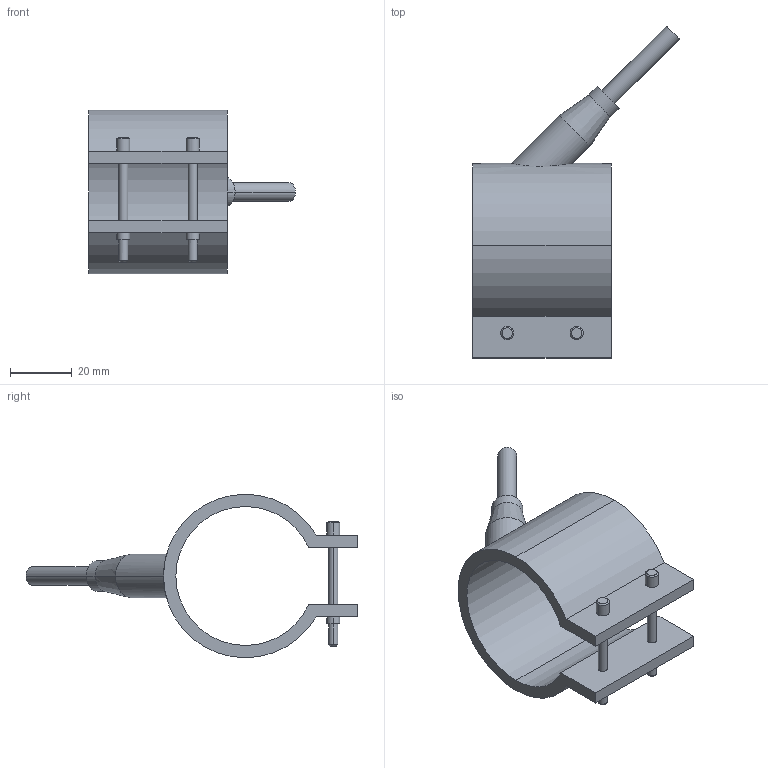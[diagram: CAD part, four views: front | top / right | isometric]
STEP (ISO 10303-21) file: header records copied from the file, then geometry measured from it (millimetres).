
FILE_DESCRIPTION(('CATIA V5 STEP Exchange'),'2;1');
FILE_NAME('C:\Users\Utente\Desktop\IO LAVORO\3D X SITO CF\X SITO\PLASTICA\RF1\29045045.stp','2021-03-27T09:33:59+00:00',('none'),('none'),'CATIA Version 5 Release 20 GA (IN-10)','CATIA V5 STEP AP203','none');
FILE_SCHEMA(('CONFIG_CONTROL_DESIGN'));
Length unit declared in the file: millimetre
Products named in the file (1): 29045045
Bounding box: 67.05 x 107.55 x 53 mm (x, y, z)
Volume: 34171 mm3; surface area: 18339.2 mm2
Topology: 1 solids, 1 shells, 54 faces, 122 edges, 78 vertices
Faces by surface type: cylinder 28, plane 16, cone 10
Entity records: 1714 total; most frequent: CARTESIAN_POINT 483, ORIENTED_EDGE 244, DIRECTION 215, EDGE_CURVE 122, AXIS2_PLACEMENT_3D 108, VERTEX_POINT 78, EDGE_LOOP 66, VECTOR 56
